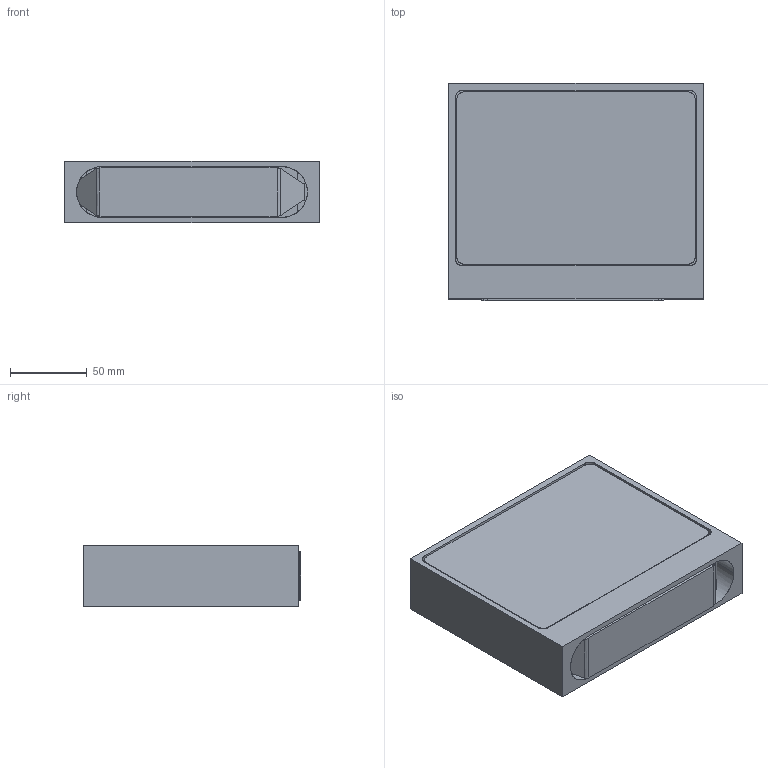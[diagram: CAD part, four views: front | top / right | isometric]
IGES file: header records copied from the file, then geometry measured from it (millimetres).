
Start section: SolidWorks IGES file using analytic representation for surfaces
Global section: file name: C:\Users\tungari.NEMOLIGHTING\Desktop\3D\WALL\3D_FIX_HALOOO\DEF\3D_FIX_HALO.IGS; native system: SolidWorks 2016; preprocessor: SolidWorks 2016; author: tungari; date: 180312.175029; units: millimetre
Bounding box: 165 x 141.03 x 40 mm (x, y, z)
Surface area: 139524.9 mm2 (no closed solid volume)
Topology: 0 solids, 0 shells, 79 faces, 652 edges, 652 vertices
Faces by surface type: bspline 50, revolution 29
